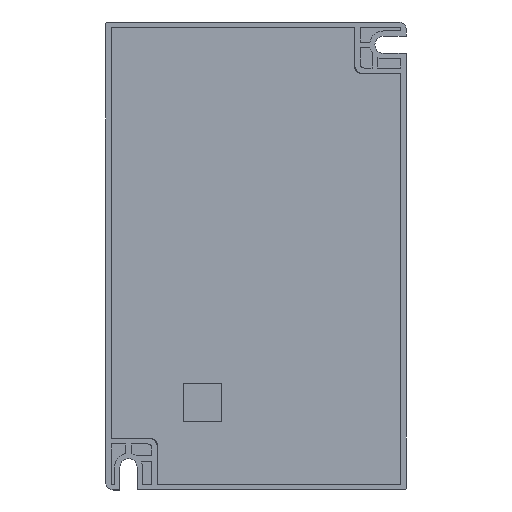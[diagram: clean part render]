
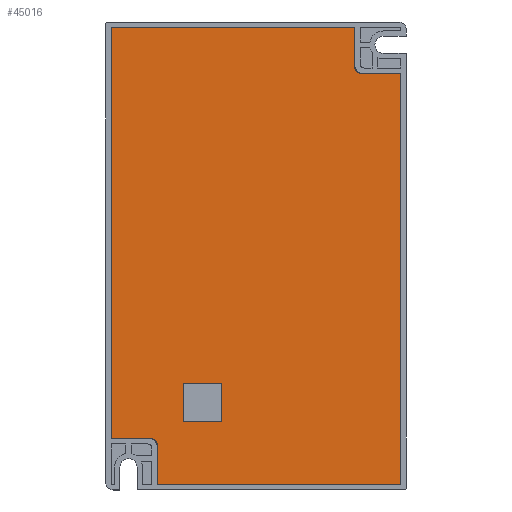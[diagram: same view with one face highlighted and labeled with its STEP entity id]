
A CAD part, top view. The second image highlights one B-rep face of the part: STEP entity #45016.
In plain terms, the highlighted planar face has unit normal (0, 0, 1).
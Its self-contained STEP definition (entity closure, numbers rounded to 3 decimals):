
#1766=CIRCLE('',#47642,2.);
#1769=CIRCLE('',#47679,2.);
#3350=FACE_OUTER_BOUND('',#5863,.T.);
#5863=EDGE_LOOP('',(#31663,#31664,#31665,#31666,#31667,#31668,#31669,#31670,
#31671,#31672));
#9604=LINE('',#65572,#14533);
#9607=LINE('',#65577,#14536);
#9617=LINE('',#65597,#14546);
#9620=LINE('',#65605,#14549);
#9681=LINE('',#65740,#14610);
#9683=LINE('',#65743,#14612);
#9684=LINE('',#65746,#14613);
#9685=LINE('',#65747,#14614);
#14533=VECTOR('',#51736,10.);
#14536=VECTOR('',#51741,10.);
#14546=VECTOR('',#51753,10.);
#14549=VECTOR('',#51762,10.);
#14610=VECTOR('',#51897,10.);
#14612=VECTOR('',#51901,10.);
#14613=VECTOR('',#51904,10.);
#14614=VECTOR('',#51905,10.);
#19414=VERTEX_POINT('',#65569);
#19415=VERTEX_POINT('',#65571);
#19416=VERTEX_POINT('',#65575);
#19425=VERTEX_POINT('',#65595);
#19426=VERTEX_POINT('',#65599);
#19427=VERTEX_POINT('',#65603);
#19462=VERTEX_POINT('',#65733);
#19463=VERTEX_POINT('',#65735);
#19464=VERTEX_POINT('',#65739);
#19465=VERTEX_POINT('',#65745);
#24071=EDGE_CURVE('',#19415,#19414,#9604,.T.);
#24074=EDGE_CURVE('',#19414,#19416,#9607,.T.);
#24084=EDGE_CURVE('',#19416,#19425,#9617,.T.);
#24086=EDGE_CURVE('',#19426,#19425,#1766,.T.);
#24088=EDGE_CURVE('',#19426,#19427,#9620,.T.);
#24150=EDGE_CURVE('',#19462,#19463,#1769,.T.);
#24152=EDGE_CURVE('',#19464,#19463,#9681,.T.);
#24154=EDGE_CURVE('',#19462,#19415,#9683,.T.);
#24155=EDGE_CURVE('',#19427,#19465,#9684,.T.);
#24156=EDGE_CURVE('',#19465,#19464,#9685,.T.);
#31663=ORIENTED_EDGE('',*,*,#24084,.T.);
#31664=ORIENTED_EDGE('',*,*,#24086,.F.);
#31665=ORIENTED_EDGE('',*,*,#24088,.T.);
#31666=ORIENTED_EDGE('',*,*,#24155,.T.);
#31667=ORIENTED_EDGE('',*,*,#24156,.T.);
#31668=ORIENTED_EDGE('',*,*,#24152,.T.);
#31669=ORIENTED_EDGE('',*,*,#24150,.F.);
#31670=ORIENTED_EDGE('',*,*,#24154,.T.);
#31671=ORIENTED_EDGE('',*,*,#24071,.T.);
#31672=ORIENTED_EDGE('',*,*,#24074,.T.);
#43262=PLANE('',#47682);
#45016=ADVANCED_FACE('',(#3350),#43262,.T.);
#47642=AXIS2_PLACEMENT_3D('',#65601,#51757,#51758);
#47679=AXIS2_PLACEMENT_3D('',#65736,#51892,#51893);
#47682=AXIS2_PLACEMENT_3D('',#65744,#51902,#51903);
#51736=DIRECTION('',(-1.,0.,0.));
#51741=DIRECTION('',(0.,-1.,0.));
#51753=DIRECTION('',(1.,0.,0.));
#51757=DIRECTION('center_axis',(0.,0.,1.));
#51758=DIRECTION('ref_axis',(0.707,0.707,0.));
#51762=DIRECTION('',(0.,-1.,0.));
#51892=DIRECTION('center_axis',(0.,0.,1.));
#51893=DIRECTION('ref_axis',(-0.707,-0.707,0.));
#51897=DIRECTION('',(-1.,0.,0.));
#51901=DIRECTION('',(0.,1.,0.));
#51902=DIRECTION('center_axis',(0.,0.,1.));
#51903=DIRECTION('ref_axis',(1.,0.,0.));
#51904=DIRECTION('',(1.,0.,0.));
#51905=DIRECTION('',(0.,1.,0.));
#65569=CARTESIAN_POINT('',(-37.95,59.95,4.9));
#65571=CARTESIAN_POINT('',(25.85,59.95,4.9));
#65572=CARTESIAN_POINT('',(-37.95,59.95,4.9));
#65575=CARTESIAN_POINT('',(-37.95,-47.85,4.9));
#65577=CARTESIAN_POINT('',(-37.95,-59.95,4.9));
#65595=CARTESIAN_POINT('',(-27.85,-47.85,4.9));
#65597=CARTESIAN_POINT('',(-18.975,-47.85,4.9));
#65599=CARTESIAN_POINT('',(-25.85,-49.85,4.9));
#65601=CARTESIAN_POINT('Origin',(-27.85,-49.85,4.9));
#65603=CARTESIAN_POINT('',(-25.85,-59.95,4.9));
#65605=CARTESIAN_POINT('',(-25.85,-23.925,4.9));
#65733=CARTESIAN_POINT('',(25.85,49.85,4.9));
#65735=CARTESIAN_POINT('',(27.85,47.85,4.9));
#65736=CARTESIAN_POINT('Origin',(27.85,49.85,4.9));
#65739=CARTESIAN_POINT('',(37.95,47.85,4.9));
#65740=CARTESIAN_POINT('',(18.975,47.85,4.9));
#65743=CARTESIAN_POINT('',(25.85,23.925,4.9));
#65744=CARTESIAN_POINT('Origin',(0.,0.,4.9));
#65745=CARTESIAN_POINT('',(37.95,-59.95,4.9));
#65746=CARTESIAN_POINT('',(37.95,-59.95,4.9));
#65747=CARTESIAN_POINT('',(37.95,59.95,4.9));
